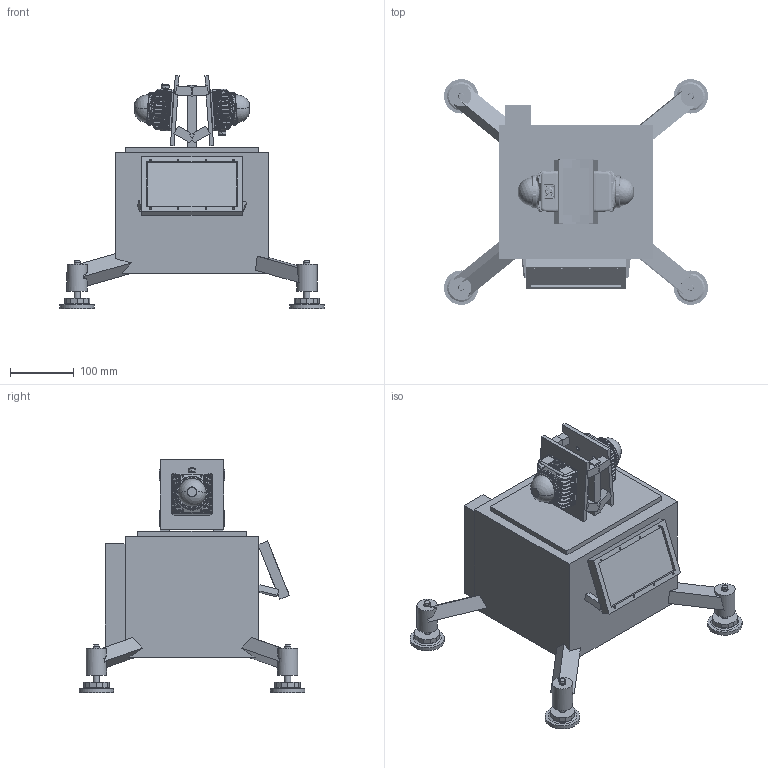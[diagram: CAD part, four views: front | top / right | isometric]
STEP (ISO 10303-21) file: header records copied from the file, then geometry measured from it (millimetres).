
FILE_DESCRIPTION(('FreeCAD Model'),'2;1');
FILE_NAME('Open CASCADE Shape Model','2026-09-04T11:06:20',('Author'),( ''),'Open CASCADE STEP processor 7.8','FreeCAD','Unknown');
FILE_SCHEMA(('AUTOMOTIVE_DESIGN { 1 0 10303 214 1 1 1 1 }'));
Length unit declared in the file: millimetre
Products named in the file (13): MONOLITH_Dual_MID360_Scanner; ONE-PIECE scanner chassis — no hinges; M12x1.75 threaded leveling foot 1 (identical part); M12x1.75 threaded leveling foot 2 (identical part); M12x1.75 threaded leveling foot 3 (identical part); M12x1.75 threaded leveling foot 4 (identical part); Livox MID-360 right — corrected bottom mount; Livox MID-360 left — corrected bottom mount; CSBattery LFP24V10; Seeed reComputer J4012; Vicor DCM3623T36G13C2T00; Noctua NF-A6x25 5V PWM; Waveshare 5.5 inch AMOLED
Assembly tree (12 placements, depth 2):
  MONOLITH_Dual_MID360_Scanner
    ONE-PIECE scanner chassis — no hinges
    M12x1.75 threaded leveling foot 1 (identical part)
    M12x1.75 threaded leveling foot 2 (identical part)
    M12x1.75 threaded leveling foot 3 (identical part)
    M12x1.75 threaded leveling foot 4 (identical part)
    Livox MID-360 right — corrected bottom mount
    Livox MID-360 left — corrected bottom mount
    CSBattery LFP24V10
    Seeed reComputer J4012
    Vicor DCM3623T36G13C2T00
    Noctua NF-A6x25 5V PWM
    Waveshare 5.5 inch AMOLED
Bounding box: 414 x 354 x 365.28 mm (x, y, z)
Volume: 9220655.2 mm3; surface area: 976583.6 mm2
Topology: 24 solids, 56 shells, 3957 faces, 10605 edges, 6808 vertices
Faces by surface type: cylinder 1388, plane 1203, bspline 636, cone 396, torus 274, extrusion 48, sphere 12
Full cylindrical faces by diameter (mm): 2.9 x8, 3.4 x8, 6.5 x8, 9.8 x4, 10.2 x184, 32 x4, 54 x4
Entity records: 204489 total; most frequent: CARTESIAN_POINT 111273, ORIENTED_EDGE 20892, DIRECTION 17359, EDGE_CURVE 10523, VERTEX_POINT 6808, AXIS2_PLACEMENT_3D 6524, VECTOR 4311, LINE 4263
